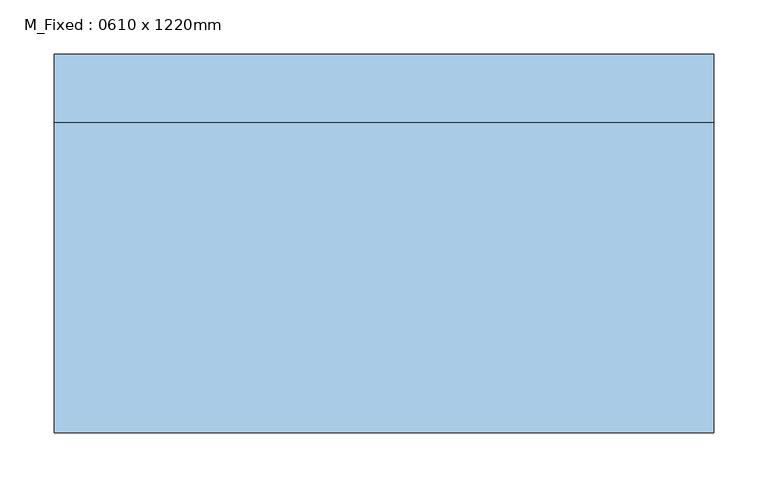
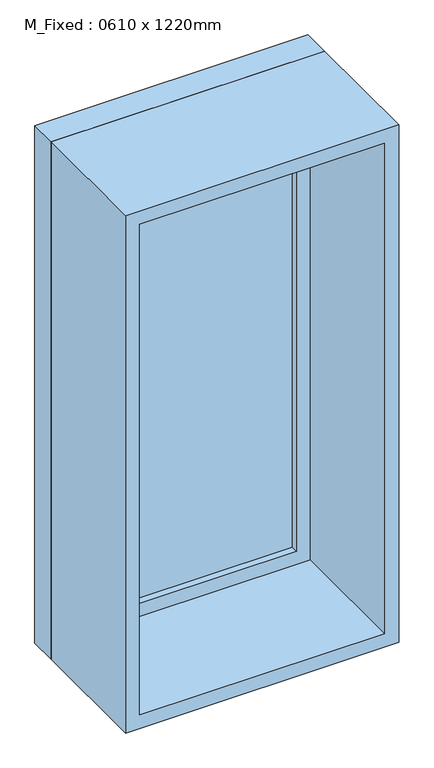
"""IFC4 building model written with IfcOpenShell, lengths in millimetres: window geometry, M_Fixed : 0610 x 1220mm."""

from ifc_helpers import new_model, si_unit, frame, origin, place, context, project, spatial, polyline, outline, extrude, source, transform, mapped, element, save


def m_fixed_0610_x_1220mm_2c28ef1d(model_context):
    return source(origin(), model_context, "Body", "SweptSolid", [
        extrude(outline(polyline([(-242.0, 153.0), (242.0, 153.0), (242.0, 141.0), (-242.0, 141.0), (-242.0, 153.0)])), frame((0.0, 0.0, 978.0), z_axis=(0.0, 0.0, 1.0), x_axis=(1.0, 0.0, 0.0)), (0.0, 0.0, 1.0), 1094.0),
        extrude(outline(polyline([(2116.0, -286.0), (934.0, -286.0), (934.0, 286.0), (2116.0, 286.0), (2116.0, -286.0)]), holes=[polyline([(2072.0, -242.0), (2072.0, 242.0), (978.0, 242.0), (978.0, -242.0), (2072.0, -242.0)])]), frame((0.0, 125.0, 0.0), z_axis=(0.0, 1.0, 0.0), x_axis=(0.0, 0.0, 1.0)), (0.0, 0.0, 1.0), 44.0),
        extrude(outline(polyline([(2135.0, -305.0), (915.0, -305.0), (915.0, 305.0), (2135.0, 305.0), (2135.0, -305.0)]), holes=[polyline([(2116.0, -286.0), (2116.0, 286.0), (934.0, 286.0), (934.0, -286.0), (2116.0, -286.0)])]), frame((0.0, 125.0, 0.0), z_axis=(0.0, 1.0, 0.0), x_axis=(0.0, 0.0, 1.0)), (0.0, 0.0, 1.0), 63.0),
        extrude(outline(polyline([(2135.0, -305.0), (915.0, -305.0), (915.0, 305.0), (2135.0, 305.0), (2135.0, -305.0)]), holes=[polyline([(2103.0, -273.0), (2103.0, 273.0), (947.0, 273.0), (947.0, -273.0), (2103.0, -273.0)])]), frame((0.0, -162.0, 0.0), z_axis=(0.0, 1.0, 0.0), x_axis=(0.0, 0.0, 1.0)), (0.0, 0.0, 1.0), 287.0),
    ])


if __name__ == "__main__":
    model = new_model("IFC4")
    model_context = context("Model", 3, world=origin())
    ifc_project = project(units=[si_unit("LENGTHUNIT", "METRE", prefix="MILLI")], contexts=[model_context])
    site = spatial("IfcSite", under=ifc_project)
    building = spatial("IfcBuilding", under=site)
    placement = place(None, origin())
    m_fixed_0610_x_1220mm_shape = m_fixed_0610_x_1220mm_2c28ef1d(model_context)
    element("IfcWindow", 1, ObjectType="M_Fixed : 0610 x 1220mm", at=placement, inside=building, context=model_context, shape_type="MappedRepresentation", body=[
        mapped(m_fixed_0610_x_1220mm_shape, transform((0.0, 0.0, 0.0), x_axis=(1.0, 0.0, 0.0), y_axis=(0.0, 1.0, 0.0), z_axis=(0.0, 0.0, 1.0))),
    ])
    save(model, "model.ifc")
